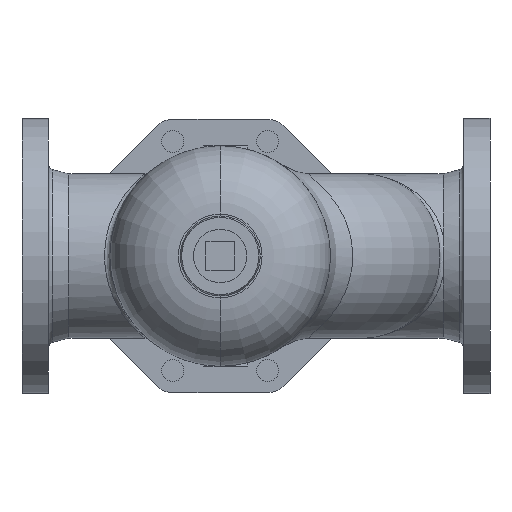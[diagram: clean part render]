
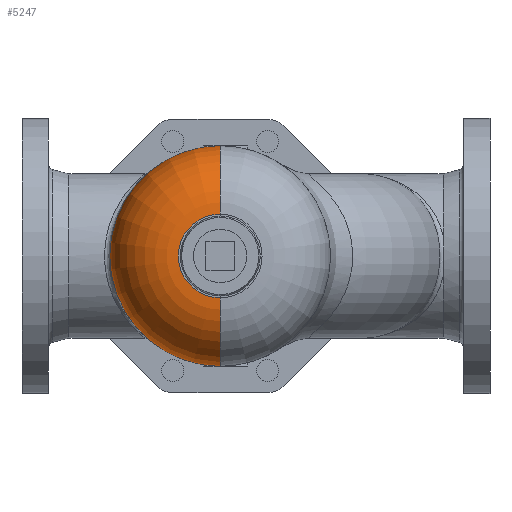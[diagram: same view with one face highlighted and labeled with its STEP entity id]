
A CAD part, front view. The second image highlights one B-rep face of the part: STEP entity #5247.
In plain terms, the highlighted toroidal (fillet/blend) face has major radius 38 mm and minor radius 62 mm.
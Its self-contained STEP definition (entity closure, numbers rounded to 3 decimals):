
#706 = DIRECTION ( 'NONE',  ( 0., 0., 1. ) ) ;
#772 = CARTESIAN_POINT ( 'NONE',  ( 0., -273.5, -38. ) ) ;
#1018 = DIRECTION ( 'NONE',  ( 0., 1., 0. ) ) ;
#1414 = AXIS2_PLACEMENT_3D ( 'NONE', #10024, #1018, #7593 ) ;
#1527 = CIRCLE ( 'NONE', #7884, 38. ) ;
#2332 = CARTESIAN_POINT ( 'NONE',  ( 0., -273.5, 0. ) ) ;
#2418 = CARTESIAN_POINT ( 'NONE',  ( 0., -273.5, 38. ) ) ;
#2445 = AXIS2_PLACEMENT_3D ( 'NONE', #772, #10494, #8909 ) ;
#2471 = DIRECTION ( 'NONE',  ( 0., 0., 1. ) ) ;
#2544 = ORIENTED_EDGE ( 'NONE', *, *, #9398, .T. ) ;
#2742 = EDGE_LOOP ( 'NONE', ( #5295, #2544, #5787, #4957 ) ) ;
#3521 = EDGE_CURVE ( 'NONE', #5839, #3953, #9504, .T. ) ;
#3611 = CARTESIAN_POINT ( 'NONE',  ( 0., -335.5, 0. ) ) ;
#3805 = CARTESIAN_POINT ( 'NONE',  ( 0., -335.5, 38. ) ) ;
#3953 = VERTEX_POINT ( 'NONE', #6802 ) ;
#4543 = EDGE_CURVE ( 'NONE', #8565, #5696, #6491, .T. ) ;
#4683 = TOROIDAL_SURFACE ( 'NONE', #1414, 38., 62. ) ;
#4734 = CIRCLE ( 'NONE', #6782, 100. ) ;
#4818 = DIRECTION ( 'NONE',  ( 0., 1., 0. ) ) ;
#4957 = ORIENTED_EDGE ( 'NONE', *, *, #7117, .F. ) ;
#5247 = ADVANCED_FACE ( 'NONE', ( #5930 ), #4683, .T. ) ;
#5295 = ORIENTED_EDGE ( 'NONE', *, *, #3521, .F. ) ;
#5696 = VERTEX_POINT ( 'NONE', #10617 ) ;
#5787 = ORIENTED_EDGE ( 'NONE', *, *, #4543, .T. ) ;
#5839 = VERTEX_POINT ( 'NONE', #9468 ) ;
#5930 = FACE_OUTER_BOUND ( 'NONE', #2742, .T. ) ;
#6491 = CIRCLE ( 'NONE', #8382, 62. ) ;
#6782 = AXIS2_PLACEMENT_3D ( 'NONE', #2332, #4818, #706 ) ;
#6802 = CARTESIAN_POINT ( 'NONE',  ( 0., -273.5, -100. ) ) ;
#7117 = EDGE_CURVE ( 'NONE', #3953, #5696, #4734, .T. ) ;
#7593 = DIRECTION ( 'NONE',  ( 0., 0., 1. ) ) ;
#7856 = DIRECTION ( 'NONE',  ( 0., 0., 1. ) ) ;
#7884 = AXIS2_PLACEMENT_3D ( 'NONE', #3611, #10407, #7856 ) ;
#8382 = AXIS2_PLACEMENT_3D ( 'NONE', #2418, #8932, #2471 ) ;
#8565 = VERTEX_POINT ( 'NONE', #3805 ) ;
#8909 = DIRECTION ( 'NONE',  ( 0., 0., -1. ) ) ;
#8932 = DIRECTION ( 'NONE',  ( -1., 0., 0. ) ) ;
#9398 = EDGE_CURVE ( 'NONE', #5839, #8565, #1527, .T. ) ;
#9468 = CARTESIAN_POINT ( 'NONE',  ( 0., -335.5, -38. ) ) ;
#9504 = CIRCLE ( 'NONE', #2445, 62. ) ;
#10024 = CARTESIAN_POINT ( 'NONE',  ( 0., -273.5, 0. ) ) ;
#10407 = DIRECTION ( 'NONE',  ( 0., 1., 0. ) ) ;
#10494 = DIRECTION ( 'NONE',  ( 1., 0., 0. ) ) ;
#10617 = CARTESIAN_POINT ( 'NONE',  ( 0., -273.5, 100. ) ) ;
